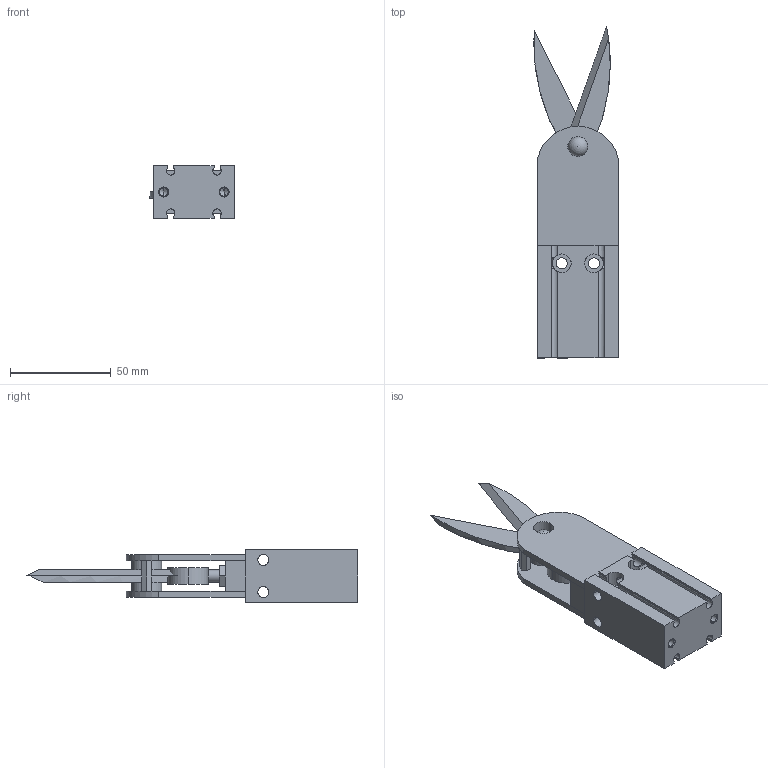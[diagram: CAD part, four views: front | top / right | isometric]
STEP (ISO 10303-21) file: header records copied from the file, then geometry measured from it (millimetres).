
FILE_DESCRIPTION (( 'STEP AP203' ), '1' );
FILE_NAME ('CUT-36D.STEP', '2021-01-20T15:21:54', ( '' ), ( '' ), 'SwSTEP 2.0', 'SolidWorks 2019', '' );
FILE_SCHEMA (( 'CONFIG_CONTROL_DESIGN' ));
Length unit declared in the file: millimetre
Products named in the file (3): CUT-26; CUT-36D; CLM20-10
Assembly tree (2 placements, depth 2):
  CUT-36D
    CUT-26
    CLM20-10
Bounding box: 41.88 x 164.88 x 26 mm (x, y, z)
Volume: 77249.9 mm3; surface area: 37366.1 mm2
Topology: 10 solids, 10 shells, 217 faces, 548 edges, 344 vertices
Faces by surface type: plane 90, cylinder 80, cone 44, sphere 3
Entity records: 9043 total; most frequent: CARTESIAN_POINT 3577, DIRECTION 1080, ORIENTED_EDGE 1060, EDGE_CURVE 530, AXIS2_PLACEMENT_3D 402, VERTEX_POINT 341, VECTOR 276, LINE 276
